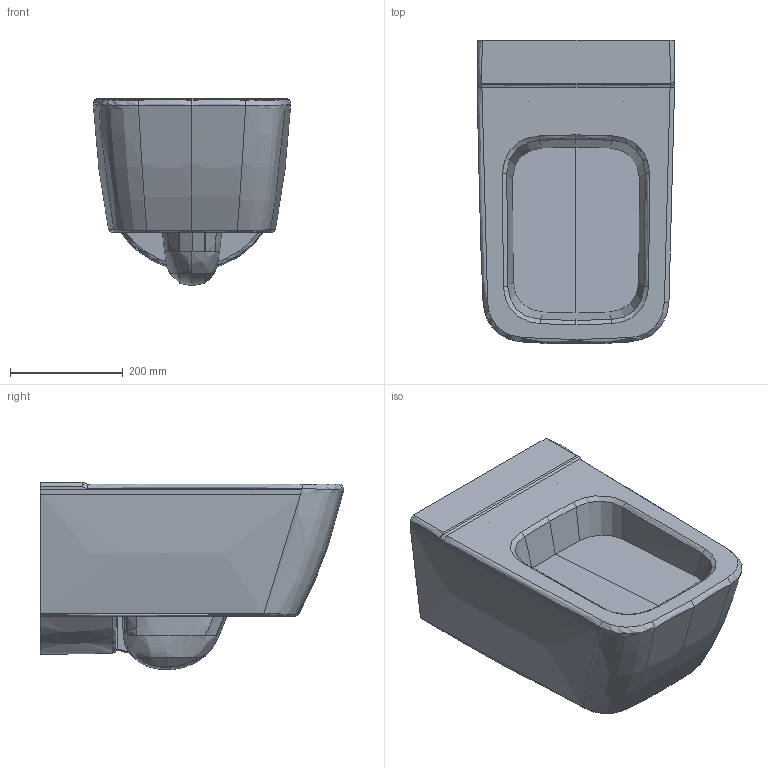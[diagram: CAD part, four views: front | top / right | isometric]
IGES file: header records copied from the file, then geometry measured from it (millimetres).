
Global section: file name: 201950000; native system: Autodesk Inventor 2018; preprocessor: unknown; author: JANAN; date: 20200529.124813; units: millimetre
Bounding box: 350.55 x 540.17 x 332.98 mm (x, y, z)
Volume: 29128099.9 mm3; surface area: 964468.4 mm2
Topology: 1 solids, 1 shells, 178 faces, 458 edges, 283 vertices
Faces by surface type: bspline 178
